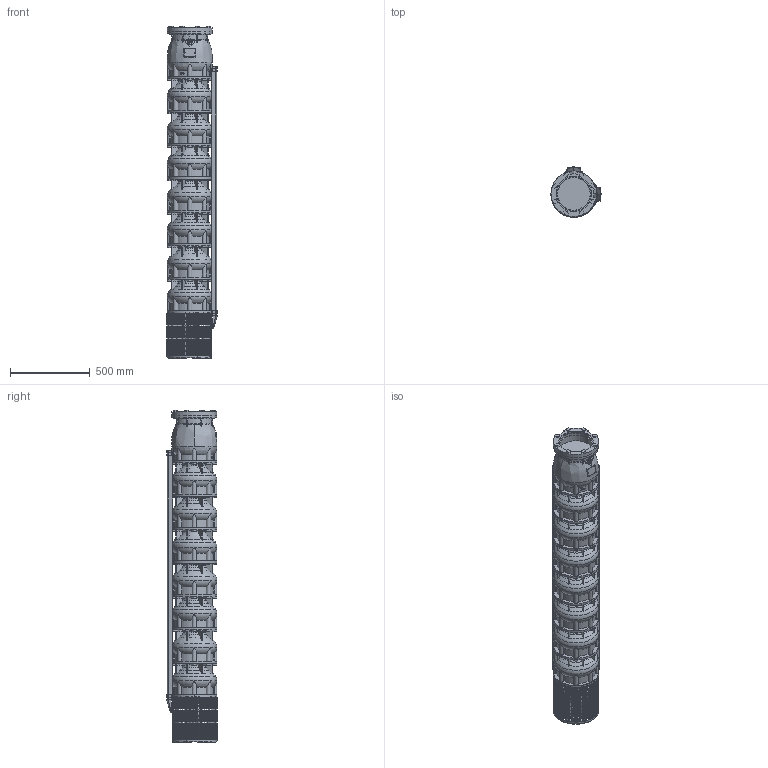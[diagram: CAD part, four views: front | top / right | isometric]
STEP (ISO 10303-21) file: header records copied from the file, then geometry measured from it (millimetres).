
FILE_DESCRIPTION(/* description */ ('-'),/* implementation_level */ '2;1');
FILE_NAME(/* name */ 'VSI344-7-1B_WF_M12-50_SLE',/* time_stamp */ '2026-01-21T11:45:32+01:00',/* author */ ('Simonelli M.'),/* organization */ ('Franklin Electric Srl'),/* preprocessor_version */ 'ST-DEVELOPER v18.102',/* originating_system */ 'Solid Edge',/* authorisation */ 'Unknown');
FILE_SCHEMA (('AUTOMOTIVE_DESIGN {1 0 10303 214 3 1 1}'));
Products named in the file (12): VSI344-7-1B_WF_M12-50_SLE; VSI344-454_testata; VSI344-454_supporto; VSI344-454_filtro_A; VSI344-454_filtro_B; VSI344-454_terminale_top_copricavo_medio; VSI344-454_terminale_bottom_copricavo_medio; MID 344-7; VSI344_diffusore; M5X8_UNI7687; VSI184-254_giunto_10×12; VSI344-454_flangia_testata
Assembly tree (31 placements, depth 2):
  VSI344-7-1B_WF_M12-50_SLE
    VSI344-454_testata
    VSI344-454_supporto
    VSI344-454_filtro_A
    VSI344-454_filtro_B
    VSI344-454_terminale_top_copricavo_medio  x2
    VSI344-454_terminale_bottom_copricavo_medio  x2
    MID 344-7  x2
    VSI344_diffusore  x7
    M5X8_UNI7687  x12
    VSI184-254_giunto_10×12
    VSI344-454_flangia_testata
Bounding box: 314.3 x 314.3 x 2085 mm (x, y, z)
Volume: 89383264 mm3; surface area: 5095534.6 mm2
Topology: 96 solids, 96 shells, 5004 faces, 14058 edges, 9340 vertices
Faces by surface type: plane 3895, cylinder 569, torus 392, cone 121, bspline 15, sphere 12
Full cylindrical faces by diameter (mm): 5 x12, 16 x8, 35 x1, 65 x1, 79 x1, 150 x1, 207 x1, 220.5 x1, 285 x7
Entity records: 124641 total; most frequent: CARTESIAN_POINT 28082, ORIENTED_EDGE 20264, DIRECTION 19380, EDGE_CURVE 10132, VERTEX_POINT 6757, AXIS2_PLACEMENT_3D 6548, LINE 6284, VECTOR 6284
